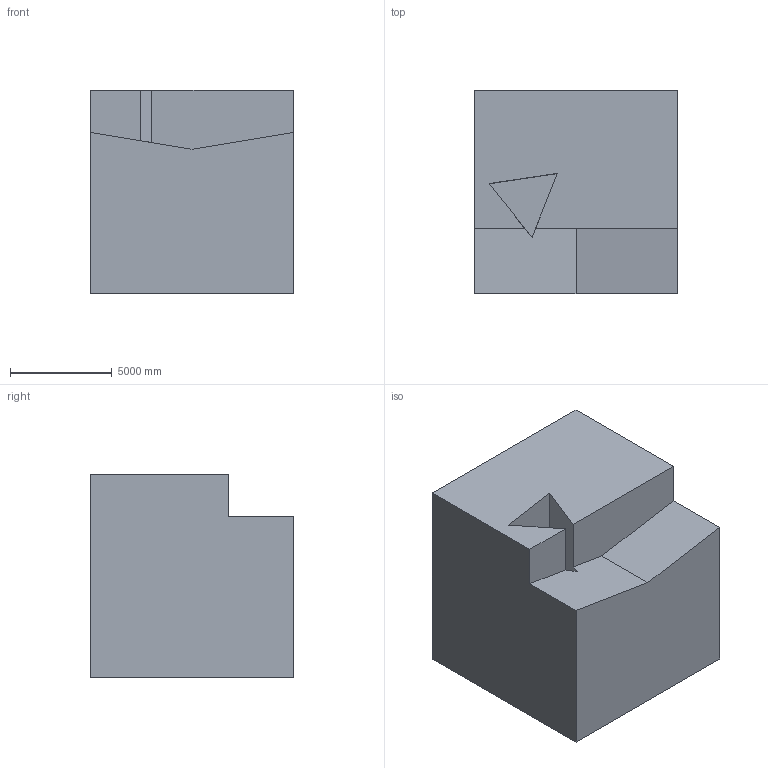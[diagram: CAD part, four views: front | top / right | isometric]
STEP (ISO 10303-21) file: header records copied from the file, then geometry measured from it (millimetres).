
FILE_DESCRIPTION (( 'STEP AP203' ), '1' );
FILE_NAME ('118.STEP', '2022-07-28T13:39:38', ( 'user' ), ( '' ), 'SwSTEP 2.0', 'SolidWorks 2021', '' );
FILE_SCHEMA (( 'CONFIG_CONTROL_DESIGN' ));
Length unit declared in the file: centimetre
Products named in the file (1): 118
Bounding box: 10000 x 10000 x 10000 mm (x, y, z)
Volume: 882283012828.8 mm3; surface area: 661103613.8 mm2
Topology: 1 solids, 1 shells, 14 faces, 36 edges, 24 vertices
Faces by surface type: plane 14
Entity records: 497 total; most frequent: CARTESIAN_POINT 75, ORIENTED_EDGE 72, DIRECTION 66, EDGE_CURVE 36, VECTOR 36, LINE 36, VERTEX_POINT 24, AXIS2_PLACEMENT_3D 15
